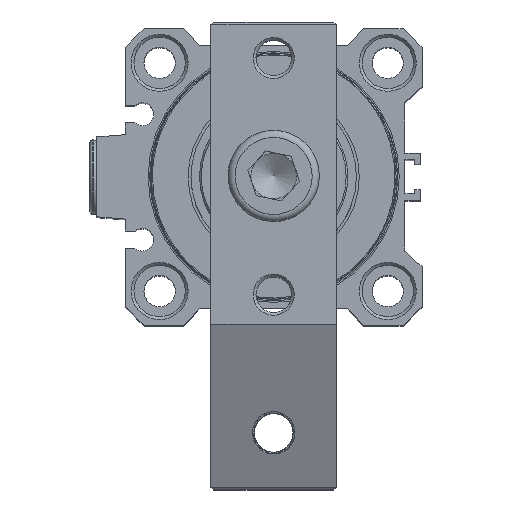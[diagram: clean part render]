
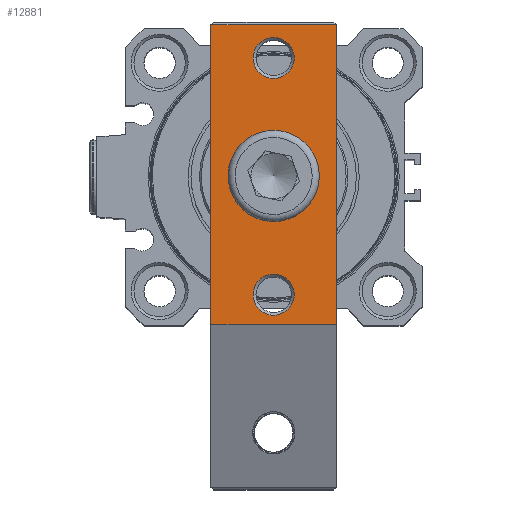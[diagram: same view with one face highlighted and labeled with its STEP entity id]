
A CAD part, top view. The second image highlights one B-rep face of the part: STEP entity #12881.
In plain terms, the highlighted planar face has unit normal (0, 0, 1) as drawn and (0, 1, 0) by its records, which use the part's own axes.
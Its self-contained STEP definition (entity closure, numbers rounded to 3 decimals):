
#327=PLANE('',#14187);
#458=FACE_BOUND('',#1840,.T.);
#459=FACE_BOUND('',#1841,.T.);
#460=FACE_BOUND('',#1842,.T.);
#1087=FACE_OUTER_BOUND('',#1839,.T.);
#1839=EDGE_LOOP('',(#10389,#10390,#10391,#10392));
#1840=EDGE_LOOP('',(#10393,#10394));
#1841=EDGE_LOOP('',(#10395,#10396));
#1842=EDGE_LOOP('',(#10397,#10398));
#2571=CIRCLE('',#14149,5.75);
#2572=CIRCLE('',#14150,5.75);
#2575=CIRCLE('',#14154,3.6);
#2576=CIRCLE('',#14155,3.6);
#2579=CIRCLE('',#14159,3.6);
#2580=CIRCLE('',#14160,3.6);
#3868=LINE('',#34050,#4573);
#3869=LINE('',#34052,#4574);
#3870=LINE('',#34054,#4575);
#3871=LINE('',#34055,#4576);
#4573=VECTOR('',#16985,1000.);
#4574=VECTOR('',#16986,1000.);
#4575=VECTOR('',#16987,1000.);
#4576=VECTOR('',#16988,1000.);
#5632=VERTEX_POINT('',#33191);
#5633=VERTEX_POINT('',#33193);
#5636=VERTEX_POINT('',#33201);
#5637=VERTEX_POINT('',#33203);
#5640=VERTEX_POINT('',#33211);
#5641=VERTEX_POINT('',#33213);
#5691=VERTEX_POINT('',#34048);
#5692=VERTEX_POINT('',#34049);
#5693=VERTEX_POINT('',#34051);
#5694=VERTEX_POINT('',#34053);
#7339=EDGE_CURVE('',#5633,#5632,#2571,.T.);
#7340=EDGE_CURVE('',#5632,#5633,#2572,.T.);
#7344=EDGE_CURVE('',#5637,#5636,#2575,.T.);
#7345=EDGE_CURVE('',#5636,#5637,#2576,.T.);
#7349=EDGE_CURVE('',#5641,#5640,#2579,.T.);
#7350=EDGE_CURVE('',#5640,#5641,#2580,.T.);
#7420=EDGE_CURVE('',#5691,#5692,#3868,.T.);
#7421=EDGE_CURVE('',#5691,#5693,#3869,.T.);
#7422=EDGE_CURVE('',#5693,#5694,#3870,.T.);
#7423=EDGE_CURVE('',#5692,#5694,#3871,.T.);
#10389=ORIENTED_EDGE('',*,*,#7420,.F.);
#10390=ORIENTED_EDGE('',*,*,#7421,.T.);
#10391=ORIENTED_EDGE('',*,*,#7422,.T.);
#10392=ORIENTED_EDGE('',*,*,#7423,.F.);
#10393=ORIENTED_EDGE('',*,*,#7339,.T.);
#10394=ORIENTED_EDGE('',*,*,#7340,.T.);
#10395=ORIENTED_EDGE('',*,*,#7349,.T.);
#10396=ORIENTED_EDGE('',*,*,#7350,.T.);
#10397=ORIENTED_EDGE('',*,*,#7344,.T.);
#10398=ORIENTED_EDGE('',*,*,#7345,.T.);
#12881=ADVANCED_FACE('',(#1087,#458,#459,#460),#327,.F.);
#14149=AXIS2_PLACEMENT_3D('',#33194,#16894,#16895);
#14150=AXIS2_PLACEMENT_3D('',#33195,#16896,#16897);
#14154=AXIS2_PLACEMENT_3D('',#33204,#16905,#16906);
#14155=AXIS2_PLACEMENT_3D('',#33205,#16907,#16908);
#14159=AXIS2_PLACEMENT_3D('',#33214,#16916,#16917);
#14160=AXIS2_PLACEMENT_3D('',#33215,#16918,#16919);
#14187=AXIS2_PLACEMENT_3D('',#34047,#16983,#16984);
#16894=DIRECTION('center_axis',(0.,-1.,0.));
#16895=DIRECTION('ref_axis',(0.,0.,-1.));
#16896=DIRECTION('center_axis',(0.,-1.,0.));
#16897=DIRECTION('ref_axis',(0.,0.,-1.));
#16905=DIRECTION('center_axis',(0.,-1.,0.));
#16906=DIRECTION('ref_axis',(0.,0.,-1.));
#16907=DIRECTION('center_axis',(0.,-1.,0.));
#16908=DIRECTION('ref_axis',(0.,0.,-1.));
#16916=DIRECTION('center_axis',(0.,-1.,0.));
#16917=DIRECTION('ref_axis',(0.,0.,-1.));
#16918=DIRECTION('center_axis',(0.,-1.,0.));
#16919=DIRECTION('ref_axis',(0.,0.,-1.));
#16983=DIRECTION('center_axis',(0.,-1.,0.));
#16984=DIRECTION('ref_axis',(0.,0.,-1.));
#16985=DIRECTION('',(-1.,0.,0.));
#16986=DIRECTION('',(0.,0.,-1.));
#16987=DIRECTION('',(-1.,0.,0.));
#16988=DIRECTION('',(0.,0.,-1.));
#33191=CARTESIAN_POINT('',(77.052,108.154,5.25));
#33193=CARTESIAN_POINT('',(77.052,108.154,16.75));
#33194=CARTESIAN_POINT('Origin',(77.052,108.154,11.));
#33195=CARTESIAN_POINT('Origin',(77.052,108.154,11.));
#33201=CARTESIAN_POINT('',(56.252,108.154,7.4));
#33203=CARTESIAN_POINT('',(56.252,108.154,14.6));
#33204=CARTESIAN_POINT('Origin',(56.252,108.154,11.));
#33205=CARTESIAN_POINT('Origin',(56.252,108.154,11.));
#33211=CARTESIAN_POINT('',(97.752,108.154,7.4));
#33213=CARTESIAN_POINT('',(97.752,108.154,14.6));
#33214=CARTESIAN_POINT('Origin',(97.752,108.154,11.));
#33215=CARTESIAN_POINT('Origin',(97.752,108.154,11.));
#34047=CARTESIAN_POINT('Origin',(104.052,108.154,22.));
#34048=CARTESIAN_POINT('',(103.552,108.154,22.));
#34049=CARTESIAN_POINT('',(51.052,108.154,22.));
#34050=CARTESIAN_POINT('',(104.052,108.154,22.));
#34051=CARTESIAN_POINT('',(103.552,108.154,0.));
#34052=CARTESIAN_POINT('',(103.552,108.154,22.));
#34053=CARTESIAN_POINT('',(51.052,108.154,0.));
#34054=CARTESIAN_POINT('',(104.052,108.154,0.));
#34055=CARTESIAN_POINT('',(51.052,108.154,22.));
